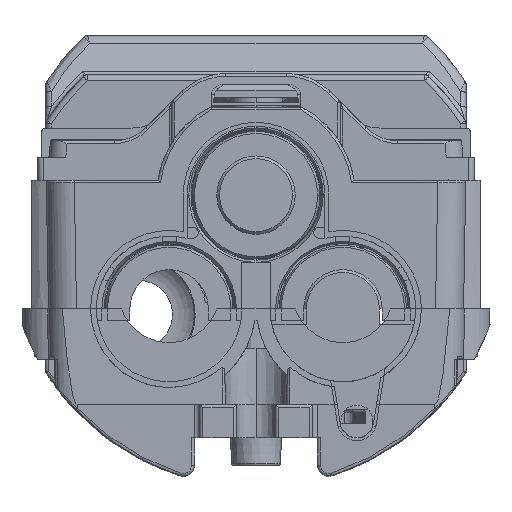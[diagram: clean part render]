
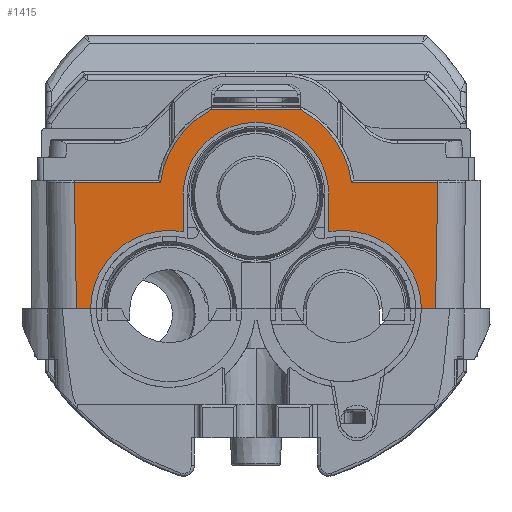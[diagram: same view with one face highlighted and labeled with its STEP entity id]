
A CAD part, left-side view. The second image highlights one B-rep face of the part: STEP entity #1415.
In plain terms, the highlighted planar face has unit normal (-1, 0, 0).
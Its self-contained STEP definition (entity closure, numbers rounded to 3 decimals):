
#114 = VECTOR ( 'NONE', #49498, 1000. ) ;
#128 = LINE ( 'NONE', #47606, #35251 ) ;
#1415 = ADVANCED_FACE ( 'NONE', ( #9919 ), #42589, .F. ) ;
#1492 = VECTOR ( 'NONE', #7922, 1000. ) ;
#1632 = ORIENTED_EDGE ( 'NONE', *, *, #21743, .F. ) ;
#1720 = CARTESIAN_POINT ( 'NONE',  ( -325.383, 0., 54.3 ) ) ;
#2582 = ORIENTED_EDGE ( 'NONE', *, *, #21139, .T. ) ;
#3044 = ORIENTED_EDGE ( 'NONE', *, *, #23539, .T. ) ;
#3061 = DIRECTION ( 'NONE',  ( -1., 0., 0. ) ) ;
#4586 = CARTESIAN_POINT ( 'NONE',  ( -325.383, 37.029, 34. ) ) ;
#5870 = CIRCLE ( 'NONE', #8691, 13. ) ;
#6149 = CARTESIAN_POINT ( 'NONE',  ( -325.383, 37.029, 69.5 ) ) ;
#6180 = VERTEX_POINT ( 'NONE', #55049 ) ;
#6270 = DIRECTION ( 'NONE',  ( 0., -1., 0. ) ) ;
#6306 = DIRECTION ( 'NONE',  ( 0., 1., 0. ) ) ;
#6378 = DIRECTION ( 'NONE',  ( 0., 1., 0. ) ) ;
#6657 = VECTOR ( 'NONE', #6378, 1000. ) ;
#6894 = CARTESIAN_POINT ( 'NONE',  ( -325.383, -29.5, 34. ) ) ;
#6991 = VERTEX_POINT ( 'NONE', #10944 ) ;
#7231 = AXIS2_PLACEMENT_3D ( 'NONE', #41007, #13234, #45696 ) ;
#7773 = CARTESIAN_POINT ( 'NONE',  ( -325.383, 17.059, 56.5 ) ) ;
#7899 = LINE ( 'NONE', #12526, #114 ) ;
#7922 = DIRECTION ( 'NONE',  ( 0., -0.017, -1. ) ) ;
#8261 = CARTESIAN_POINT ( 'NONE',  ( -325.383, -13., 54.3 ) ) ;
#8664 = ORIENTED_EDGE ( 'NONE', *, *, #22735, .F. ) ;
#8691 = AXIS2_PLACEMENT_3D ( 'NONE', #1720, #33761, #6270 ) ;
#9484 = AXIS2_PLACEMENT_3D ( 'NONE', #30546, #3061, #35134 ) ;
#9919 = FACE_OUTER_BOUND ( 'NONE', #16559, .T. ) ;
#10180 = LINE ( 'NONE', #4586, #31806 ) ;
#10686 = DIRECTION ( 'NONE',  ( 0., 1., 0. ) ) ;
#10944 = CARTESIAN_POINT ( 'NONE',  ( -325.383, 8.05, 69.5 ) ) ;
#11778 = VERTEX_POINT ( 'NONE', #51243 ) ;
#12526 = CARTESIAN_POINT ( 'NONE',  ( -325.383, 37.029, 34. ) ) ;
#13234 = DIRECTION ( 'NONE',  ( -1., 0., 0. ) ) ;
#14356 = ORIENTED_EDGE ( 'NONE', *, *, #21940, .F. ) ;
#15837 = AXIS2_PLACEMENT_3D ( 'NONE', #53008, #25333, #57654 ) ;
#15979 = CARTESIAN_POINT ( 'NONE',  ( -325.383, 32.421, 56.5 ) ) ;
#16173 = LINE ( 'NONE', #6149, #17624 ) ;
#16309 = LINE ( 'NONE', #44495, #1492 ) ;
#16465 = ORIENTED_EDGE ( 'NONE', *, *, #23690, .T. ) ;
#16559 = EDGE_LOOP ( 'NONE', ( #16465, #18059, #3044, #56337, #58345, #8664, #58785, #14356, #1632, #40505, #52358, #2582, #38264, #49069 ) ) ;
#17624 = VECTOR ( 'NONE', #10686, 1000. ) ;
#18059 = ORIENTED_EDGE ( 'NONE', *, *, #23951, .T. ) ;
#19694 = VERTEX_POINT ( 'NONE', #20178 ) ;
#20178 = CARTESIAN_POINT ( 'NONE',  ( -325.383, 32.028, 34. ) ) ;
#20829 = EDGE_CURVE ( 'NONE', #6180, #30830, #41330, .T. ) ;
#21139 = EDGE_CURVE ( 'NONE', #24788, #6180, #42034, .T. ) ;
#21318 = EDGE_CURVE ( 'NONE', #40640, #24788, #57800, .T. ) ;
#21390 = EDGE_CURVE ( 'NONE', #24016, #40640, #10180, .T. ) ;
#21743 = EDGE_CURVE ( 'NONE', #24016, #29934, #31065, .T. ) ;
#21940 = EDGE_CURVE ( 'NONE', #29934, #22636, #25206, .T. ) ;
#22210 = EDGE_CURVE ( 'NONE', #22636, #11778, #5870, .T. ) ;
#22470 = DIRECTION ( 'NONE',  ( 0., 0., 1. ) ) ;
#22538 = CARTESIAN_POINT ( 'NONE',  ( -325.383, -32.74, 74.782 ) ) ;
#22636 = VERTEX_POINT ( 'NONE', #56533 ) ;
#22735 = EDGE_CURVE ( 'NONE', #11778, #41353, #31694, .T. ) ;
#22984 = EDGE_CURVE ( 'NONE', #41353, #36334, #47604, .T. ) ;
#23080 = EDGE_CURVE ( 'NONE', #19694, #36334, #7899, .T. ) ;
#23539 = EDGE_CURVE ( 'NONE', #42826, #19694, #16309, .T. ) ;
#23690 = EDGE_CURVE ( 'NONE', #6991, #44755, #33736, .T. ) ;
#23951 = EDGE_CURVE ( 'NONE', #44755, #42826, #128, .T. ) ;
#24016 = VERTEX_POINT ( 'NONE', #6894 ) ;
#24788 = VERTEX_POINT ( 'NONE', #53856 ) ;
#24985 = CARTESIAN_POINT ( 'NONE',  ( -325.383, 13., 54.3 ) ) ;
#25206 = LINE ( 'NONE', #8261, #26710 ) ;
#25333 = DIRECTION ( 'NONE',  ( -1., 0., 0. ) ) ;
#26508 = EDGE_CURVE ( 'NONE', #30830, #6991, #16173, .T. ) ;
#26695 = CARTESIAN_POINT ( 'NONE',  ( -325.383, 0., 54.3 ) ) ;
#26710 = VECTOR ( 'NONE', #22470, 1000. ) ;
#29934 = VERTEX_POINT ( 'NONE', #37052 ) ;
#30546 = CARTESIAN_POINT ( 'NONE',  ( -325.383, 15.5, 34. ) ) ;
#30830 = VERTEX_POINT ( 'NONE', #30957 ) ;
#30957 = CARTESIAN_POINT ( 'NONE',  ( -325.383, -8.05, 69.5 ) ) ;
#31065 = CIRCLE ( 'NONE', #15837, 14. ) ;
#31346 = DIRECTION ( 'NONE',  ( 0., 0., -1. ) ) ;
#31694 = LINE ( 'NONE', #24985, #54779 ) ;
#31806 = VECTOR ( 'NONE', #55086, 1000. ) ;
#33736 = CIRCLE ( 'NONE', #7231, 17.2 ) ;
#33761 = DIRECTION ( 'NONE',  ( -1., 0., 0. ) ) ;
#35134 = DIRECTION ( 'NONE',  ( 0., -1., 0. ) ) ;
#35251 = VECTOR ( 'NONE', #6306, 1000. ) ;
#36334 = VERTEX_POINT ( 'NONE', #40937 ) ;
#37052 = CARTESIAN_POINT ( 'NONE',  ( -325.383, -13., 47.775 ) ) ;
#37253 = CARTESIAN_POINT ( 'NONE',  ( -325.383, 13., 47.775 ) ) ;
#38264 = ORIENTED_EDGE ( 'NONE', *, *, #20829, .T. ) ;
#38358 = CARTESIAN_POINT ( 'NONE',  ( -325.383, -32.028, 34. ) ) ;
#40505 = ORIENTED_EDGE ( 'NONE', *, *, #21390, .T. ) ;
#40640 = VERTEX_POINT ( 'NONE', #38358 ) ;
#40937 = CARTESIAN_POINT ( 'NONE',  ( -325.383, 29.5, 34. ) ) ;
#41007 = CARTESIAN_POINT ( 'NONE',  ( -325.383, 0., 54.3 ) ) ;
#41330 = CIRCLE ( 'NONE', #59700, 17.2 ) ;
#41340 = AXIS2_PLACEMENT_3D ( 'NONE', #42344, #42744, #42799 ) ;
#41353 = VERTEX_POINT ( 'NONE', #37253 ) ;
#42034 = LINE ( 'NONE', #56918, #6657 ) ;
#42344 = CARTESIAN_POINT ( 'NONE',  ( -325.383, 37.029, 76. ) ) ;
#42555 = DIRECTION ( 'NONE',  ( 0., 0., -1. ) ) ;
#42589 = PLANE ( 'NONE',  #41340 ) ;
#42744 = DIRECTION ( 'NONE',  ( 1., 0., 0. ) ) ;
#42799 = DIRECTION ( 'NONE',  ( 0., 0., -1. ) ) ;
#42826 = VERTEX_POINT ( 'NONE', #15979 ) ;
#44495 = CARTESIAN_POINT ( 'NONE',  ( -325.383, 32.762, 76.074 ) ) ;
#44755 = VERTEX_POINT ( 'NONE', #7773 ) ;
#45696 = DIRECTION ( 'NONE',  ( 0., 0., -1. ) ) ;
#47604 = CIRCLE ( 'NONE', #9484, 14. ) ;
#47606 = CARTESIAN_POINT ( 'NONE',  ( -325.383, 37.029, 56.5 ) ) ;
#49069 = ORIENTED_EDGE ( 'NONE', *, *, #26508, .T. ) ;
#49498 = DIRECTION ( 'NONE',  ( 0., -1., 0. ) ) ;
#51243 = CARTESIAN_POINT ( 'NONE',  ( -325.383, 13., 54.3 ) ) ;
#52358 = ORIENTED_EDGE ( 'NONE', *, *, #21318, .T. ) ;
#53008 = CARTESIAN_POINT ( 'NONE',  ( -325.383, -15.5, 34. ) ) ;
#53856 = CARTESIAN_POINT ( 'NONE',  ( -325.383, -32.421, 56.5 ) ) ;
#54779 = VECTOR ( 'NONE', #42555, 1000. ) ;
#54888 = DIRECTION ( 'NONE',  ( 0., -0.017, 1. ) ) ;
#55049 = CARTESIAN_POINT ( 'NONE',  ( -325.383, -17.059, 56.5 ) ) ;
#55086 = DIRECTION ( 'NONE',  ( 0., -1., 0. ) ) ;
#56337 = ORIENTED_EDGE ( 'NONE', *, *, #23080, .T. ) ;
#56533 = CARTESIAN_POINT ( 'NONE',  ( -325.383, -13., 54.3 ) ) ;
#56918 = CARTESIAN_POINT ( 'NONE',  ( -325.383, 37.029, 56.5 ) ) ;
#57654 = DIRECTION ( 'NONE',  ( 0., -1., 0. ) ) ;
#57800 = LINE ( 'NONE', #22538, #59286 ) ;
#58345 = ORIENTED_EDGE ( 'NONE', *, *, #22984, .F. ) ;
#58785 = ORIENTED_EDGE ( 'NONE', *, *, #22210, .F. ) ;
#59005 = DIRECTION ( 'NONE',  ( -1., 0., 0. ) ) ;
#59286 = VECTOR ( 'NONE', #54888, 1000. ) ;
#59700 = AXIS2_PLACEMENT_3D ( 'NONE', #26695, #59005, #31346 ) ;
